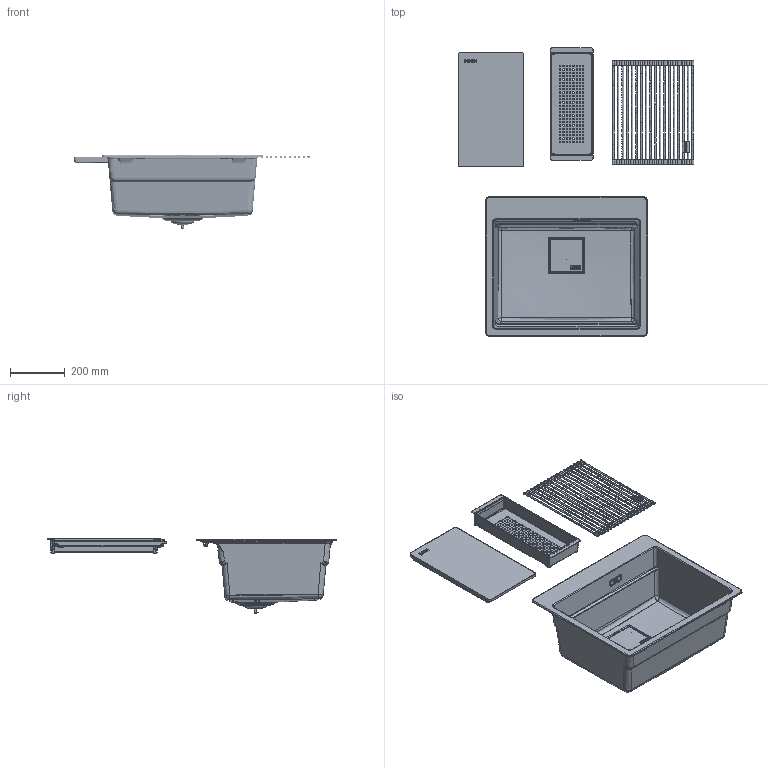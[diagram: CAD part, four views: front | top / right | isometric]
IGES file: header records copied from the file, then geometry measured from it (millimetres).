
Global section: file name: F:\_CONVERSIONE_CAD_2024_2025\PACCHETTI_2026\NUOVI_PACCHETTI_LUGLIO\PRIORITY_1\3D001_Sinks_Kubus-2-Pro_KNG-PRO-610-53-FTL\3D001_Sinks_Kubus-2-Pro_KNG-PRO-610-53-FTL.igs; native system: Rhinoceros ( May  6 2026 ); preprocessor: Trout Lake IGES 012 May  6 2026; date: 260703.070915; units: millimetre
Bounding box: 860.56 x 1054.67 x 273.72 mm (x, y, z)
Surface area: 2142397.2 mm2 (no closed solid volume)
Topology: 0 solids, 0 shells, 6665 faces, 39278 edges, 38949 vertices
Faces by surface type: bspline 6665
